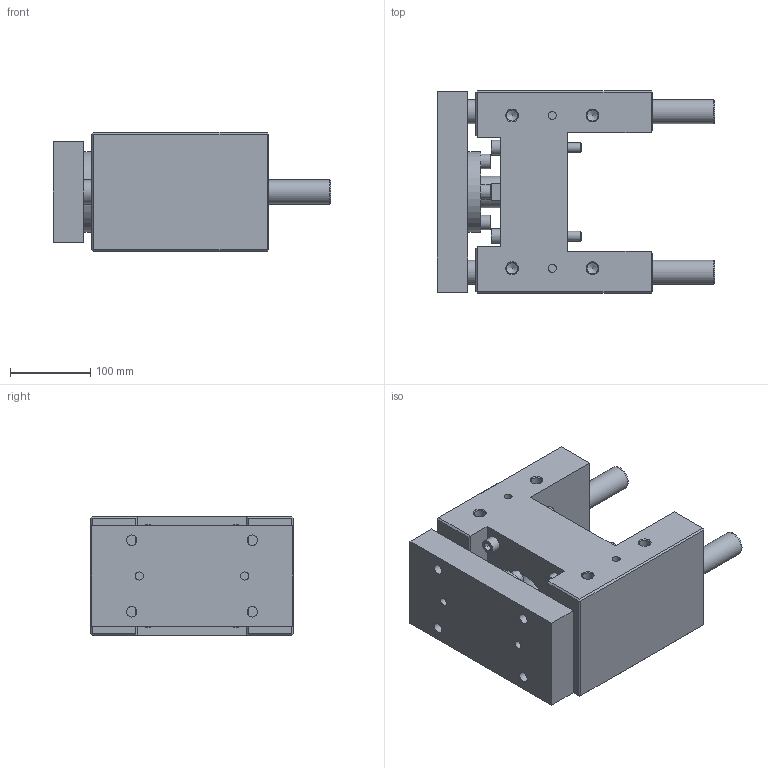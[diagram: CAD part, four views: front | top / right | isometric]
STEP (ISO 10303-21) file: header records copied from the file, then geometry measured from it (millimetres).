
FILE_DESCRIPTION( ( 'STEP AP214' ), '1' );
FILE_NAME( 'U:/Etudes/Top Solid/BIBLIO 3D AVM/TOP/PNEUMATIQUE/GUIDAGES/Type 32 (en H)/R_Renforcée/320R0_30.step', '2005-05-27T08:38:19', ( ' ' ), ( ' ' ), 'XStep 1.0', ' ', ' ' );
FILE_SCHEMA( ( 'automotive_design' ) );
Length unit declared in the file: metre
Products named in the file (2): 1; 2
Bounding box: 345 x 252 x 148 mm (x, y, z)
Volume: 6381188.3 mm3; surface area: 521844.6 mm2
Topology: 2 solids, 7 shells, 238 faces, 524 edges, 339 vertices
Faces by surface type: plane 149, cylinder 68, cone 21
Full cylindrical faces by diameter (mm): 10 x4, 10.106 x4, 12 x16, 13 x12, 13.835 x8, 18 x8, 20 x4, 24.835 x1, 30 x4, 39 x1, 42 x1, 57 x1, 60 x2, 65 x1, 100 x1
Entity records: 7905 total; most frequent: CARTESIAN_POINT 1198, DIRECTION 996, ORIENTED_EDGE 784, EDGE_CURVE 392, EDGE_LOOP 390, AXIS2_PLACEMENT_3D 372, FACE_OUTER_BOUND 306, VERTEX_POINT 302
